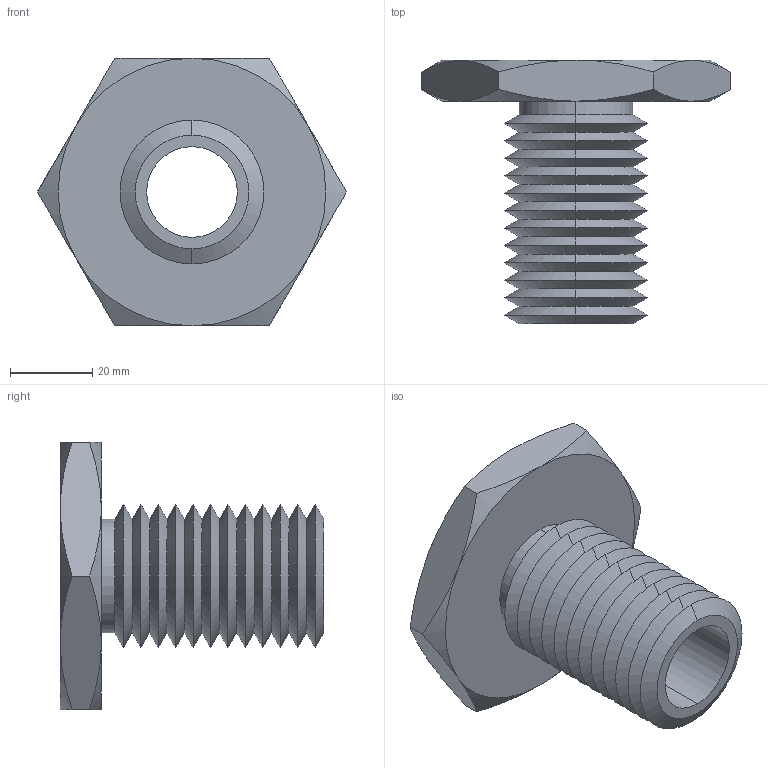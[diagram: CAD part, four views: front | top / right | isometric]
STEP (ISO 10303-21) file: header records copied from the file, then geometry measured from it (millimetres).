
FILE_DESCRIPTION (( 'STEP AP203' ), '1' );
FILE_NAME ('63302.W5138_M22x2,5.step', '2013-12-08T11:42:40', ( 'User' ), ( '' ), 'SwSTEP 2.0', 'SolidWorks 2009', '' );
FILE_SCHEMA (( 'CONFIG_CONTROL_DESIGN' ));
Length unit declared in the file: millimetre
Products named in the file (1): 63302.W5138_M22x2,5
Bounding box: 75.06 x 64 x 65 mm (x, y, z)
Volume: 52523.5 mm3; surface area: 23049.6 mm2
Topology: 1 solids, 1 shells, 75 faces, 154 edges, 82 vertices
Faces by surface type: cone 62, plane 9, cylinder 4
Entity records: 2139 total; most frequent: CARTESIAN_POINT 496, DIRECTION 352, ORIENTED_EDGE 308, EDGE_CURVE 154, AXIS2_PLACEMENT_3D 146, VERTEX_POINT 82, EDGE_LOOP 78, ADVANCED_FACE 75
